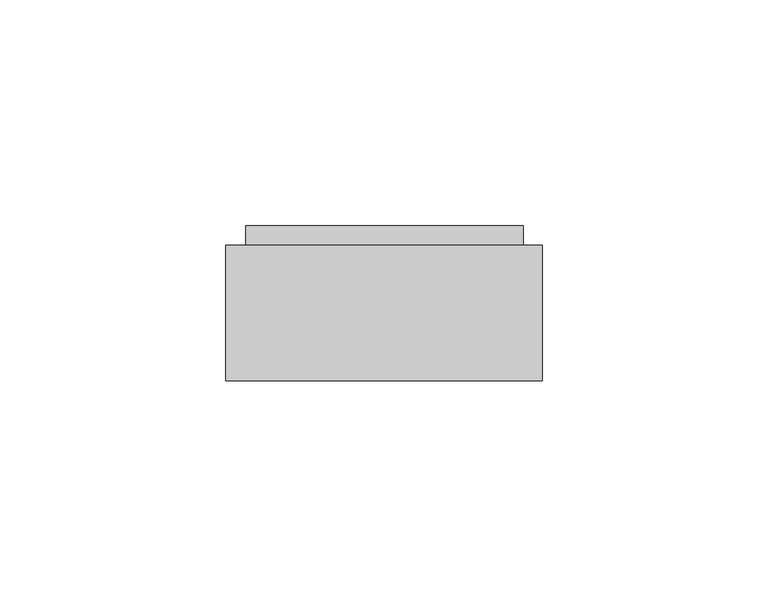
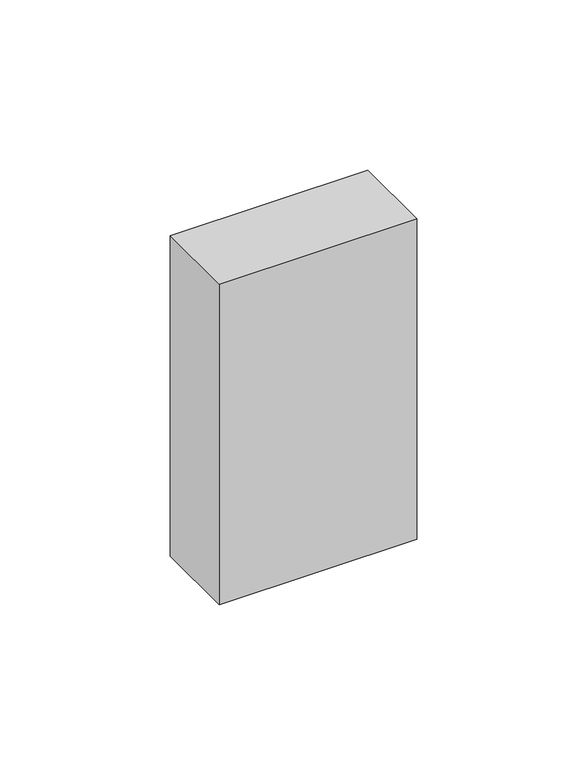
"""IFC4 building model written with IfcOpenShell, lengths in millimetres: proxy geometry, AI_Eqpmt genie clim_Commande murale Clim : Commande murale Clim."""

from ifc_helpers import new_model, si_unit, frame, origin, place, context, project, spatial, polyline, outline, extrude, source, transform, mapped, element, save


def mechanical_equipment_4a9d14a3(model_context):
    return source(origin(), model_context, "Body", "SweptSolid", [
        extrude(outline(polyline([(19.7869555, 34.3129457), (30.625, 34.3129457), (30.625, 30.0), (19.7869555, 30.0), (19.7869555, 34.3129457)])), frame((0.0, 0.0, -29.228591), z_axis=(0.0, 0.0, 1.0), x_axis=(1.0, 0.0, 0.0)), (0.0, 0.0, 1.0), 12.7607885),
        extrude(outline(polyline([(5.4190223, 34.3129457), (5.4190223, 30.0), (-5.4190223, 30.0), (-5.4190223, 34.3129457), (5.4190223, 34.3129457)])), frame((0.0, 0.0, -29.228591), z_axis=(0.0, 0.0, 1.0), x_axis=(1.0, 0.0, 0.0)), (0.0, 0.0, 1.0), 12.7607885),
        extrude(outline(polyline([(-19.7869555, 34.3129457), (-19.7869555, 30.0), (-30.625, 30.0), (-30.625, 34.3129457), (-19.7869555, 34.3129457)])), frame((0.0, 0.0, -29.228591), z_axis=(0.0, 0.0, 1.0), x_axis=(1.0, 0.0, 0.0)), (0.0, 0.0, 1.0), 12.7607885),
        extrude(outline(polyline([(30.7807261, 34.3129457), (30.7807261, 30.0), (-30.625, 30.0), (-30.625, 34.3129457), (30.7807261, 34.3129457)])), frame((0.0, 0.0, 3.3054727), z_axis=(0.0, 0.0, 1.0), x_axis=(1.0, 0.0, 0.0)), (0.0, 0.0, 1.0), 52.4615482),
        extrude(outline(polyline([(35.0, 30.0), (35.0, 0.0), (-35.0, 0.0), (-35.0, 30.0), (35.0, 30.0)])), frame((0.0, 0.0, -60.0), z_axis=(0.0, 0.0, 1.0), x_axis=(1.0, 0.0, 0.0)), (0.0, 0.0, 1.0), 120.0),
    ])


if __name__ == "__main__":
    model = new_model("IFC4")
    model_context = context("Model", 3, world=origin())
    ifc_project = project(units=[si_unit("LENGTHUNIT", "METRE", prefix="MILLI")], contexts=[model_context])
    site = spatial("IfcSite", under=ifc_project)
    building = spatial("IfcBuilding", under=site)
    placement = place(None, origin())
    mechanical_equipment_shape = mechanical_equipment_4a9d14a3(model_context)
    element("IfcBuildingElementProxy", 1, Name="AI_Eqpmt genie clim_Commande murale Clim : Commande murale Clim", ObjectType="AI_Eqpmt genie clim_Commande murale Clim : Commande murale Clim", at=placement, inside=building, context=model_context, shape_type="MappedRepresentation", body=[
        mapped(mechanical_equipment_shape, transform((0.0, 0.0, 0.0), x_axis=(1.0, 0.0, 0.0), y_axis=(0.0, 1.0, 0.0), z_axis=(0.0, 0.0, 1.0))),
    ])
    save(model, "model.ifc")
